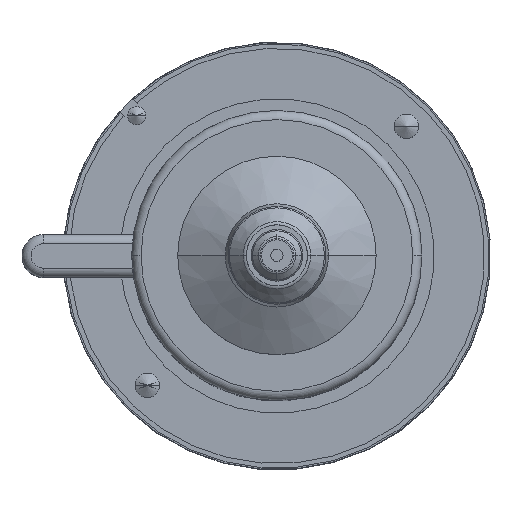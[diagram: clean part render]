
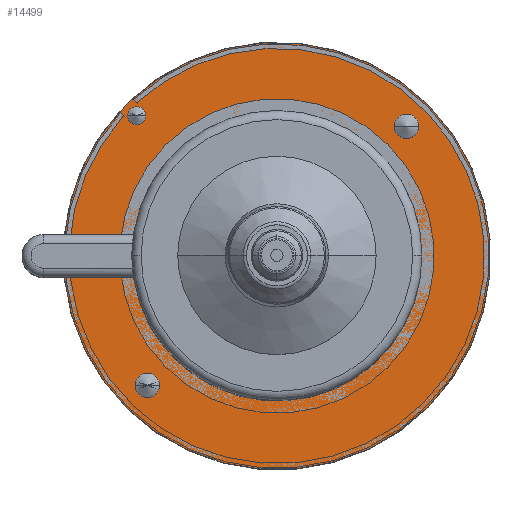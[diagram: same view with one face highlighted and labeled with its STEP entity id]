
A CAD part, top view. The second image highlights one B-rep face of the part: STEP entity #14499.
In plain terms, the highlighted planar face has unit normal (0, 0, 1).
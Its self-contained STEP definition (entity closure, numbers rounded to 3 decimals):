
#912 = VERTEX_POINT ( 'NONE', #1483 ) ;
#988 = VERTEX_POINT ( 'NONE', #20766 ) ;
#1010 = VERTEX_POINT ( 'NONE', #20792 ) ;
#1143 = VERTEX_POINT ( 'NONE', #20194 ) ;
#1181 = VERTEX_POINT ( 'NONE', #20505 ) ;
#1248 = VERTEX_POINT ( 'NONE', #20431 ) ;
#1337 = VERTEX_POINT ( 'NONE', #20440 ) ;
#1467 = VERTEX_POINT ( 'NONE', #20393 ) ;
#1474 = VERTEX_POINT ( 'NONE', #20745 ) ;
#1483 = CARTESIAN_POINT ( 'NONE',  ( 47.5, 0., 32. ) ) ;
#2219 = PLANE ( 'NONE',  #14198 ) ;
#2220 = CARTESIAN_POINT ( 'NONE',  ( 0., 32.5, 32. ) ) ;
#2221 = DIRECTION ( 'NONE',  ( 0., 0., -1. ) ) ;
#2222 = DIRECTION ( 'NONE',  ( -1., 0., 0. ) ) ;
#3634 = CIRCLE ( 'NONE', #17661, 4. ) ;
#3827 = CIRCLE ( 'NONE', #11411, 47.5 ) ;
#3851 = CIRCLE ( 'NONE', #11332, 4. ) ;
#4762 = CARTESIAN_POINT ( 'NONE',  ( 0., 0., 32. ) ) ;
#4763 = DIRECTION ( 'NONE',  ( 0., 0., 1. ) ) ;
#4764 = DIRECTION ( 'NONE',  ( -1., 0., 0. ) ) ;
#4773 = CARTESIAN_POINT ( 'NONE',  ( -42.426, -42.426, 32. ) ) ;
#4774 = DIRECTION ( 'NONE',  ( 0., 0., 1. ) ) ;
#4775 = DIRECTION ( 'NONE',  ( -1., 0., 0. ) ) ;
#4850 = CARTESIAN_POINT ( 'NONE',  ( -48.962, 45.962, 32. ) ) ;
#4930 = CARTESIAN_POINT ( 'NONE',  ( -46.981, 7., 32. ) ) ;
#5399 = AXIS2_PLACEMENT_3D ( 'NONE', #4773, #4774, #4775 ) ;
#5402 = AXIS2_PLACEMENT_3D ( 'NONE', #4762, #4763, #4764 ) ;
#8577 = EDGE_LOOP ( 'NONE', ( #17952, #18143, #18170, #18203, #18002 ) ) ;
#9430 = FACE_OUTER_BOUND ( 'NONE', #8577, .T. ) ;
#9431 = FACE_BOUND ( 'NONE', #19063, .T. ) ;
#9432 = FACE_BOUND ( 'NONE', #18937, .T. ) ;
#9433 = FACE_BOUND ( 'NONE', #19071, .T. ) ;
#9560 = CIRCLE ( 'NONE', #11376, 4. ) ;
#9601 = LINE ( 'NONE', #10820, #9602 ) ;
#9602 = VECTOR ( 'NONE', #10821, 1000. ) ;
#9658 = CIRCLE ( 'NONE', #9958, 70. ) ;
#9732 = CIRCLE ( 'NONE', #22458, 3. ) ;
#9756 = LINE ( 'NONE', #11329, #9758 ) ;
#9758 = VECTOR ( 'NONE', #11330, 1000. ) ;
#9771 = CIRCLE ( 'NONE', #14475, 3. ) ;
#9814 = CIRCLE ( 'NONE', #5402, 47.5 ) ;
#9819 = CIRCLE ( 'NONE', #5399, 4. ) ;
#9958 = AXIS2_PLACEMENT_3D ( 'NONE', #10960, #10961, #10963 ) ;
#10168 = CARTESIAN_POINT ( 'NONE',  ( -42.426, -42.426, 32. ) ) ;
#10169 = DIRECTION ( 'NONE',  ( 0., 0., 1. ) ) ;
#10170 = DIRECTION ( 'NONE',  ( -1., 0., 0. ) ) ;
#10475 = CARTESIAN_POINT ( 'NONE',  ( 0., 0., 32. ) ) ;
#10477 = DIRECTION ( 'NONE',  ( 0., 0., 1. ) ) ;
#10478 = DIRECTION ( 'NONE',  ( -1., 0., 0. ) ) ;
#10542 = CARTESIAN_POINT ( 'NONE',  ( 42.426, 42.426, 32. ) ) ;
#10544 = DIRECTION ( 'NONE',  ( 0., 0., 1. ) ) ;
#10546 = DIRECTION ( 'NONE',  ( 1., 0., 0. ) ) ;
#10675 = CARTESIAN_POINT ( 'NONE',  ( 42.426, 42.426, 32. ) ) ;
#10677 = DIRECTION ( 'NONE',  ( 0., 0., 1. ) ) ;
#10679 = DIRECTION ( 'NONE',  ( 1., 0., 0. ) ) ;
#10820 = CARTESIAN_POINT ( 'NONE',  ( 0., -7., 32. ) ) ;
#10821 = DIRECTION ( 'NONE',  ( -1., 0., 0. ) ) ;
#10960 = CARTESIAN_POINT ( 'NONE',  ( 0., 0., 32. ) ) ;
#10961 = DIRECTION ( 'NONE',  ( 0., 0., -1. ) ) ;
#10963 = DIRECTION ( 'NONE',  ( -1., 0., 0. ) ) ;
#11269 = CARTESIAN_POINT ( 'NONE',  ( -45.962, 45.962, 32. ) ) ;
#11270 = DIRECTION ( 'NONE',  ( 0., 0., 1. ) ) ;
#11271 = DIRECTION ( 'NONE',  ( -1., 0., 0. ) ) ;
#11329 = CARTESIAN_POINT ( 'NONE',  ( 0., 7., 32. ) ) ;
#11330 = DIRECTION ( 'NONE',  ( 1., 0., 0. ) ) ;
#11332 = AXIS2_PLACEMENT_3D ( 'NONE', #10542, #10544, #10546 ) ;
#11376 = AXIS2_PLACEMENT_3D ( 'NONE', #10675, #10677, #10679 ) ;
#11378 = CARTESIAN_POINT ( 'NONE',  ( -45.962, 45.962, 32. ) ) ;
#11379 = DIRECTION ( 'NONE',  ( 0., 0., 1. ) ) ;
#11380 = DIRECTION ( 'NONE',  ( -1., 0., 0. ) ) ;
#11411 = AXIS2_PLACEMENT_3D ( 'NONE', #10475, #10477, #10478 ) ;
#14198 = AXIS2_PLACEMENT_3D ( 'NONE', #2220, #2221, #2222 ) ;
#14475 = AXIS2_PLACEMENT_3D ( 'NONE', #11378, #11379, #11380 ) ;
#14499 = ADVANCED_FACE ( 'NONE', ( #9430, #9431, #9432, #9433 ), #2219, .F. ) ;
#17142 = EDGE_CURVE ( 'NONE', #988, #1181, #3634, .T. ) ;
#17281 = EDGE_CURVE ( 'NONE', #1248, #912, #3827, .T. ) ;
#17295 = EDGE_CURVE ( 'NONE', #1337, #1474, #3851, .T. ) ;
#17321 = EDGE_CURVE ( 'NONE', #1474, #1337, #9560, .T. ) ;
#17351 = EDGE_CURVE ( 'NONE', #1248, #1467, #9601, .T. ) ;
#17395 = EDGE_CURVE ( 'NONE', #1010, #1467, #9658, .T. ) ;
#17445 = EDGE_CURVE ( 'NONE', #1143, #17829, #9732, .T. ) ;
#17463 = EDGE_CURVE ( 'NONE', #1010, #17909, #9756, .T. ) ;
#17473 = EDGE_CURVE ( 'NONE', #17829, #1143, #9771, .T. ) ;
#17502 = EDGE_CURVE ( 'NONE', #912, #17909, #9814, .T. ) ;
#17506 = EDGE_CURVE ( 'NONE', #1181, #988, #9819, .T. ) ;
#17661 = AXIS2_PLACEMENT_3D ( 'NONE', #10168, #10169, #10170 ) ;
#17829 = VERTEX_POINT ( 'NONE', #4850 ) ;
#17909 = VERTEX_POINT ( 'NONE', #4930 ) ;
#17952 = ORIENTED_EDGE ( 'NONE', *, *, #17281, .F. ) ;
#18002 = ORIENTED_EDGE ( 'NONE', *, *, #17502, .F. ) ;
#18008 = ORIENTED_EDGE ( 'NONE', *, *, #17445, .F. ) ;
#18100 = ORIENTED_EDGE ( 'NONE', *, *, #17321, .F. ) ;
#18118 = ORIENTED_EDGE ( 'NONE', *, *, #17295, .F. ) ;
#18143 = ORIENTED_EDGE ( 'NONE', *, *, #17351, .T. ) ;
#18152 = ORIENTED_EDGE ( 'NONE', *, *, #17142, .F. ) ;
#18170 = ORIENTED_EDGE ( 'NONE', *, *, #17395, .F. ) ;
#18182 = ORIENTED_EDGE ( 'NONE', *, *, #17506, .F. ) ;
#18203 = ORIENTED_EDGE ( 'NONE', *, *, #17463, .T. ) ;
#18212 = ORIENTED_EDGE ( 'NONE', *, *, #17473, .F. ) ;
#18937 = EDGE_LOOP ( 'NONE', ( #18100, #18118 ) ) ;
#19063 = EDGE_LOOP ( 'NONE', ( #18212, #18008 ) ) ;
#19071 = EDGE_LOOP ( 'NONE', ( #18152, #18182 ) ) ;
#20194 = CARTESIAN_POINT ( 'NONE',  ( -42.962, 45.962, 32. ) ) ;
#20393 = CARTESIAN_POINT ( 'NONE',  ( -69.649, -7., 32. ) ) ;
#20431 = CARTESIAN_POINT ( 'NONE',  ( -46.981, -7., 32. ) ) ;
#20440 = CARTESIAN_POINT ( 'NONE',  ( 38.426, 42.426, 32. ) ) ;
#20505 = CARTESIAN_POINT ( 'NONE',  ( -38.426, -42.426, 32. ) ) ;
#20745 = CARTESIAN_POINT ( 'NONE',  ( 46.426, 42.426, 32. ) ) ;
#20766 = CARTESIAN_POINT ( 'NONE',  ( -46.426, -42.426, 32. ) ) ;
#20792 = CARTESIAN_POINT ( 'NONE',  ( -69.649, 7., 32. ) ) ;
#22458 = AXIS2_PLACEMENT_3D ( 'NONE', #11269, #11270, #11271 ) ;
